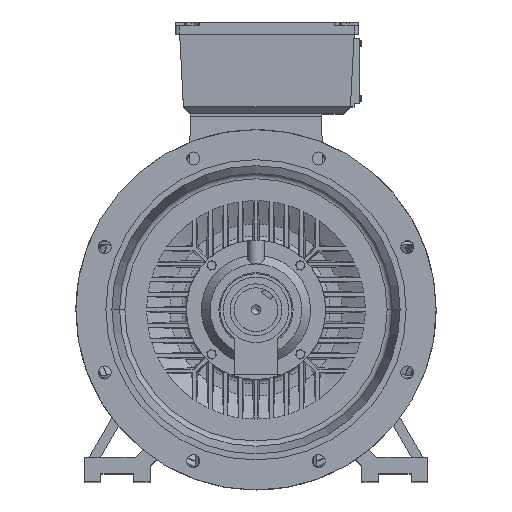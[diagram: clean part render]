
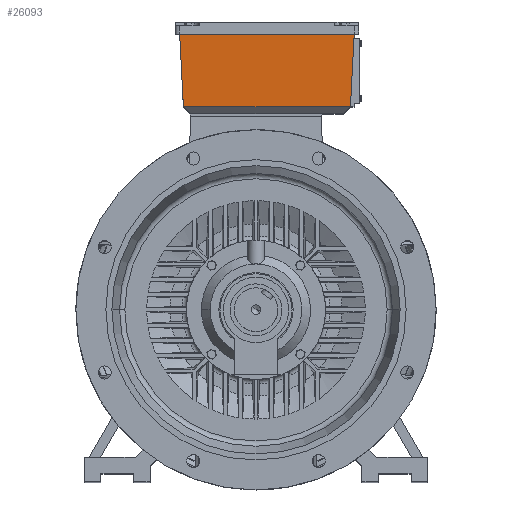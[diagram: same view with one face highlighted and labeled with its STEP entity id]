
A CAD part, top view. The second image highlights one B-rep face of the part: STEP entity #26093.
In plain terms, the highlighted planar face has unit normal (0, -0.051, 0.999) as drawn and (-0.999, 0, -0.051) by its records, which use the part's own axes.
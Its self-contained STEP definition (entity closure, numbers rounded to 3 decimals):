
#19687 = EDGE_LOOP ( 'NONE', ( #216371, #269522, #215909, #269472, #216618, #216599 ) ) ;
#26093 = ADVANCED_FACE ( 'NONE', ( #324245 ), #126815, .T. ) ;
#96715 = EDGE_CURVE ( 'NONE', #162642, #162600, #102092, .T. ) ;
#96721 = EDGE_CURVE ( 'NONE', #162630, #162642, #102101, .T. ) ;
#96738 = EDGE_CURVE ( 'NONE', #162638, #162589, #102126, .T. ) ;
#96753 = EDGE_CURVE ( 'NONE', #162680, #162630, #102152, .T. ) ;
#96758 = EDGE_CURVE ( 'NONE', #162680, #162638, #102160, .T. ) ;
#97174 = EDGE_CURVE ( 'NONE', #162600, #162589, #102424, .T. ) ;
#102089 = VECTOR ( 'NONE', #120818, 1000. ) ;
#102092 = LINE ( 'NONE', #120812, #102089 ) ;
#102101 = LINE ( 'NONE', #120838, #102106 ) ;
#102106 = VECTOR ( 'NONE', #120851, 1000. ) ;
#102126 = LINE ( 'NONE', #121108, #102132 ) ;
#102132 = VECTOR ( 'NONE', #121123, 1000. ) ;
#102152 = LINE ( 'NONE', #121284, #102155 ) ;
#102155 = VECTOR ( 'NONE', #121245, 1000. ) ;
#102160 = LINE ( 'NONE', #121342, #102163 ) ;
#102163 = VECTOR ( 'NONE', #121318, 1000. ) ;
#102424 = LINE ( 'NONE', #172537, #102429 ) ;
#102429 = VECTOR ( 'NONE', #172551, 1000. ) ;
#120812 = CARTESIAN_POINT ( 'NONE',  ( -133., 0., 13. ) ) ;
#120818 = DIRECTION ( 'NONE',  ( 0., -1., 0. ) ) ;
#120838 = CARTESIAN_POINT ( 'NONE',  ( -133., 0., 13. ) ) ;
#120851 = DIRECTION ( 'NONE',  ( 0., -1., 0. ) ) ;
#121108 = CARTESIAN_POINT ( 'NONE',  ( -140., -180., 150. ) ) ;
#121123 = DIRECTION ( 'NONE',  ( 0., -1., 0. ) ) ;
#121245 = DIRECTION ( 'NONE',  ( 0.051, -0.051, -0.997 ) ) ;
#121284 = CARTESIAN_POINT ( 'NONE',  ( -136.5, 136.5, 81.5 ) ) ;
#121318 = DIRECTION ( 'NONE',  ( 0., -1., 0. ) ) ;
#121342 = CARTESIAN_POINT ( 'NONE',  ( -140., 0., 150. ) ) ;
#126800 = CARTESIAN_POINT ( 'NONE',  ( -140., -180., 150. ) ) ;
#126815 = PLANE ( 'NONE',  #278725 ) ;
#126818 = DIRECTION ( 'NONE',  ( -0.999, 0., -0.051 ) ) ;
#126820 = DIRECTION ( 'NONE',  ( 0., 1., 0. ) ) ;
#162589 = VERTEX_POINT ( 'NONE', #221033 ) ;
#162600 = VERTEX_POINT ( 'NONE', #221041 ) ;
#162630 = VERTEX_POINT ( 'NONE', #201644 ) ;
#162638 = VERTEX_POINT ( 'NONE', #201649 ) ;
#162642 = VERTEX_POINT ( 'NONE', #201651 ) ;
#162680 = VERTEX_POINT ( 'NONE', #201678 ) ;
#172537 = CARTESIAN_POINT ( 'NONE',  ( -136.5, -176.5, 81.5 ) ) ;
#172551 = DIRECTION ( 'NONE',  ( -0.051, -0.051, 0.997 ) ) ;
#201644 = CARTESIAN_POINT ( 'NONE',  ( -133., 133., 13. ) ) ;
#201649 = CARTESIAN_POINT ( 'NONE',  ( -140., 0., 150. ) ) ;
#201651 = CARTESIAN_POINT ( 'NONE',  ( -133., 0., 13. ) ) ;
#201678 = CARTESIAN_POINT ( 'NONE',  ( -140., 140., 150. ) ) ;
#215909 = ORIENTED_EDGE ( 'NONE', *, *, #96753, .T. ) ;
#216371 = ORIENTED_EDGE ( 'NONE', *, *, #96738, .F. ) ;
#216599 = ORIENTED_EDGE ( 'NONE', *, *, #97174, .T. ) ;
#216618 = ORIENTED_EDGE ( 'NONE', *, *, #96715, .T. ) ;
#221033 = CARTESIAN_POINT ( 'NONE',  ( -140., -180., 150. ) ) ;
#221041 = CARTESIAN_POINT ( 'NONE',  ( -133., -173., 13. ) ) ;
#269472 = ORIENTED_EDGE ( 'NONE', *, *, #96721, .T. ) ;
#269522 = ORIENTED_EDGE ( 'NONE', *, *, #96758, .F. ) ;
#278725 = AXIS2_PLACEMENT_3D ( 'NONE', #126800, #126818, #126820 ) ;
#324245 = FACE_OUTER_BOUND ( 'NONE', #19687, .T. ) ;
